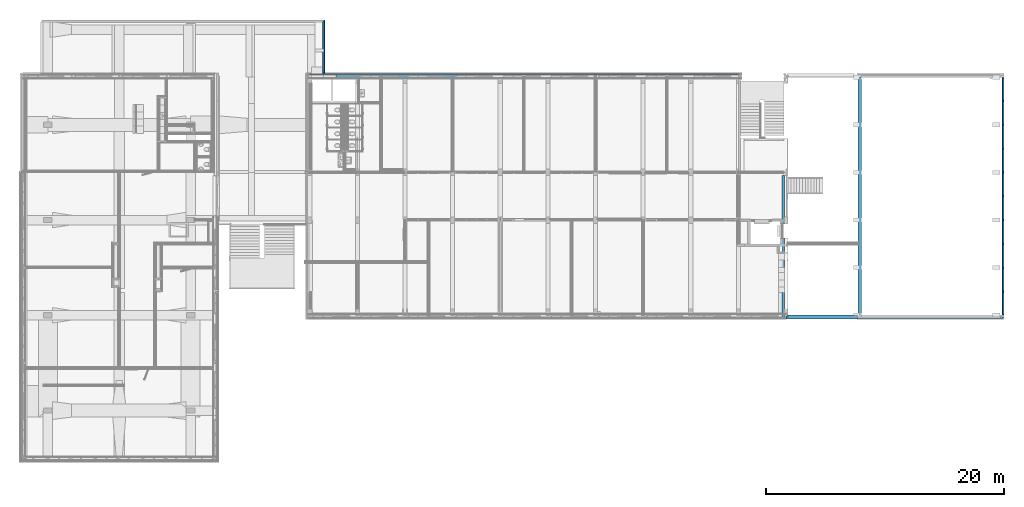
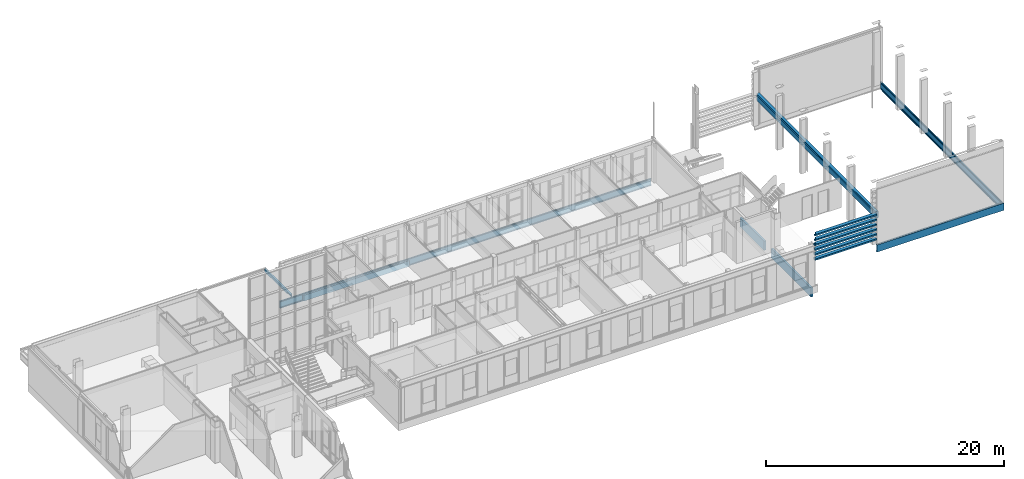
# One storey, part 21 of 94: 15 beams.
"""IFC2X3 building model written with IfcOpenShell, lengths in millimetres."""

from ifc_helpers import new_model, entity, si_unit, converted_unit, derived_unit, money_unit, direction, frame, origin_with_axes, place, context, subcontext, project, spatial, faceted_brep, material, type_object, element, save


model = new_model("IFC2X3")

# Units and contexts
model_context = context("Model", 3, precision=0.01, world=origin_with_axes(), true_north=direction((0.0, 1.0)))
body_context = subcontext(model_context, "Body", "Model", "MODEL_VIEW")
ifc_project = project(units=[si_unit("LENGTHUNIT", "METRE", prefix="MILLI"), si_unit("AREAUNIT", "SQUARE_METRE"), si_unit("VOLUMEUNIT", "CUBIC_METRE"), converted_unit("PLANEANGLEUNIT", "DEGREE", entity("IfcPlaneAngleMeasure", 0.0174532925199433), si_unit("PLANEANGLEUNIT", "RADIAN"), dimensions=[0, 0, 0, 0, 0, 0, 0]), money_unit("EUR"), converted_unit("TIMEUNIT", "Year", entity("IfcTimeMeasure", 31557600.0), si_unit("TIMEUNIT", "SECOND"), dimensions=[0, 0, 1, 0, 0, 0, 0]), si_unit("MASSUNIT", "GRAM", prefix="KILO"), si_unit("THERMODYNAMICTEMPERATUREUNIT", "DEGREE_CELSIUS"), si_unit("LUMINOUSINTENSITYUNIT", "LUMEN"), si_unit("ENERGYUNIT", "JOULE", prefix="MEGA"), derived_unit("THERMALCONDUCTANCEUNIT", [(si_unit("POWERUNIT", "WATT"), 1), (si_unit("LENGTHUNIT", "METRE"), -1), (si_unit("THERMODYNAMICTEMPERATUREUNIT", "KELVIN"), -1)]), derived_unit("SPECIFICHEATCAPACITYUNIT", [(si_unit("ENERGYUNIT", "JOULE"), 1), (si_unit("MASSUNIT", "GRAM", prefix="KILO"), -1), (si_unit("THERMODYNAMICTEMPERATUREUNIT", "KELVIN"), -1)]), derived_unit("MASSDENSITYUNIT", [(si_unit("MASSUNIT", "GRAM", prefix="KILO"), 1), (si_unit("VOLUMEUNIT", "CUBIC_METRE"), -1)])], contexts=[model_context])

# Site, building, storey
site_placement = place(None, origin_with_axes())
site = spatial("IfcSite", under=ifc_project, at=site_placement, Name="<site naam>", CompositionType="ELEMENT")
building_placement = place(site_placement, origin_with_axes())
building = spatial("IfcBuilding", under=site, at=building_placement, Name="<Naam gebouw>", CompositionType="ELEMENT")
storey_placement = place(building_placement, frame((0.0, 0.0, 4250.0), z_axis=(0.0, 0.0, 1.0), x_axis=(1.0, 0.0, 0.0)))
storey = spatial("IfcBuildingStorey", under=building, at=storey_placement, Name="01 1e verdieping", CompositionType="ELEMENT", Elevation=4250.0)

# Beams
ifc_material_1 = material(Name="beton_gewapend C")
beam_type_1 = type_object("IfcBeamType", Name="beton_gewapend C 280 x 700", PredefinedType="BEAM")
beam_1_placement = place(storey_placement, frame((58325.00000000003, 19999.99999999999, 5312.5), z_axis=(0.0, 0.0, 1.0), x_axis=(-1.0, 0.0, 0.0)))
element("IfcBeam", 1, at=beam_1_placement, inside=storey, type_object=beam_type_1, material=ifc_material_1, Name="28_Balk_beton_gewapend", ObjectType="BEAM", context=body_context, shape_type="Brep", body=[
    faceted_brep([(280.0000000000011, 0.0, -699.9999999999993), (280.0000000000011, 0.0, -179.4999999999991), (149.9999999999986, 0.0, -179.4999999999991), (149.9999999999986, 0.0, -29.49999999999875), (280.0000000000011, 0.0, -29.49999999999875), (280.0000000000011, 0.0, 0.0), (0.0, 0.0, 0.0), (0.0, 0.0, -699.9999999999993), (280.0000000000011, 19949.95463461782, -29.49999999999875), (280.0000000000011, 19949.95463461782, -179.4999999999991), (280.0000000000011, 19989.08932188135, -699.9999999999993), (280.0000000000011, 19989.08932188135, 0.0), (149.9999999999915, 19949.95463461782, -179.4999999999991), (149.9999999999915, 19949.95463461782, -29.49999999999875), (0.0, 19989.08932188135, 0.0), (0.0, 19989.08932188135, -699.9999999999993)], [[[0, 1, 2, 3, 4, 5, 6, 7]], [[8, 9, 1, 0, 10, 11, 5, 4]], [[12, 2, 1, 9]], [[13, 3, 2, 12]], [[8, 4, 3, 13]], [[6, 5, 11, 14]], [[7, 6, 14, 15]], [[0, 7, 15, 10]], [[12, 9, 8, 13]], [[15, 14, 11, 10]]]),
])
ifc_material_2 = material(Name="beton")
beam_type_2 = type_object("IfcBeamType", Name="beton 335 x 150", PredefinedType="BEAM")
beam_2_placement = place(storey_placement, frame((52000.00000000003, -324.0893218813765, 4625.0), z_axis=(0.0, 0.0, 1.0), x_axis=(0.0, -1.0, 0.0)))
element("IfcBeam", 2, at=beam_2_placement, inside=storey, type_object=beam_type_2, material=ifc_material_2, Name="41_Balk_beton", ObjectType="BEAM", context=body_context, shape_type="Brep", body=[
    faceted_brep([(-334.9999999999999, 175.0000000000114, 150.0000000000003), (-335.0000000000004, 6000.0, 150.0000000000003), (-335.0000000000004, 6000.0, 0.0), (-334.9999999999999, 175.0000000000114, 0.0), (0.0, 6000.0, 150.0000000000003), (-129.089317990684, 175.0000000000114, 150.0000000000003), (-129.0893179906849, 0.0, 150.0000000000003), (0.0, 0.0, 150.0000000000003), (0.0, 6000.0, 0.0), (0.0, 0.0, 0.0), (-129.0893179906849, 0.0, 0.0), (-129.089317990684, 175.0000000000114, 0.0)], [[[0, 1, 2, 3]], [[4, 1, 0, 5, 6, 7]], [[4, 8, 2, 1]], [[8, 9, 10, 11, 3, 2]], [[0, 3, 11, 5]], [[5, 11, 10, 6]], [[10, 9, 7, 6]], [[8, 4, 7, 9]]]),
])
for number, where, z_axis, x_axis, name in (
    (3, (52000.00000000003, -324.0893218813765, 3625.0), (0.0, 0.0, 1.0), (0.0, -1.0, 0.0), "41_Balk_beton"),
    (4, (52000.00000000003, -324.0893218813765, 3125.0), (0.0, 0.0, 1.0), (0.0, -1.0, 0.0), "41_Balk_beton"),
):
    element("IfcBeam", number, at=place(storey_placement, frame(where, z_axis=z_axis, x_axis=x_axis)), inside=storey, type_object=beam_type_2, material=ifc_material_2, Name=name, ObjectType="BEAM", context=body_context, shape_type="Brep", body=[
        faceted_brep([(-216.414802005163, 175.0000241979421, 150.0000000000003), (-216.414802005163, 65.00002351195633, 150.0000000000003), (-260.0893218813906, 65.00002351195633, 150.0000000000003), (-260.0893218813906, 0.0, 150.0000000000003), (0.0, 0.0, 150.0000000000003), (0.0, 6000.0, 150.0000000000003), (-335.0000000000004, 6000.0, 150.0000000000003), (-334.9999999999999, 65.00000000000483, 150.0000000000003), (-324.0892758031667, 65.00002351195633, 150.0000000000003), (-324.0892758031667, 175.0000241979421, 150.0000000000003), (-216.414802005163, 65.00002351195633, 0.0), (-216.414802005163, 175.0000241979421, 0.0), (-260.0893218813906, 65.00002351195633, 0.0), (-260.0893218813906, 0.0, 0.0), (0.0, 0.0, 0.0), (0.0, 6000.0, 0.0), (-335.0000000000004, 6000.0, 0.0), (-334.9999999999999, 65.00000000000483, 0.0), (-324.0892758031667, 65.00002351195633, 0.0), (-324.0892758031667, 175.0000241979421, 0.0)], [[[0, 1, 2, 3, 4, 5, 6, 7, 8, 9]], [[10, 1, 0, 11]], [[10, 12, 2, 1]], [[3, 2, 12, 13]], [[14, 4, 3, 13]], [[5, 4, 14, 15]], [[15, 16, 6, 5]], [[6, 16, 17, 7]], [[17, 18, 8, 7]], [[19, 9, 8, 18]], [[11, 0, 9, 19]], [[11, 19, 18, 17, 16, 15, 14, 13, 12, 10]]]),
    ])
beam_3_placement = place(storey_placement, frame((52000.00000000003, -324.0893218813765, 4125.0), z_axis=(0.0, 0.0, 1.0), x_axis=(0.0, -1.0, 0.0)))
element("IfcBeam", 5, at=beam_3_placement, inside=storey, type_object=beam_type_2, material=ifc_material_2, Name="41_Balk_beton", ObjectType="BEAM", context=body_context, shape_type="Brep", body=[
    faceted_brep([(-335.0000000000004, 6000.0, 150.0000000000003), (-335.0000000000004, 6000.0, 0.0), (-334.9999999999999, 65.00000000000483, 0.0), (-334.9999999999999, 65.00000000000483, 95.00000521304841), (-335.0000000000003, 175.0000000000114, 94.99999999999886), (-334.9999999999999, 175.0000000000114, 150.0000000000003), (0.0, 6000.0, 150.0000000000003), (0.0, 6000.0, 0.0), (0.0, 0.0, 0.0), (-260.0893218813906, 0.0, 0.0), (-260.0893218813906, 65.00000000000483, 0.0), (-260.0893218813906, 65.00000000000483, 94.99999999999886), (-260.0893218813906, 0.0, 95.00000829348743), (-159.0893290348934, 0.0, 95.00000829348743), (-129.089317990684, 0.0, 95.00000829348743), (-129.089317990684, 175.0000000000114, 94.99999999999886), (-129.089317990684, 175.0000000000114, 150.0000000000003), (-129.0893179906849, 0.0, 150.0000000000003), (0.0, 0.0, 150.0000000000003)], [[[0, 1, 2, 3, 4, 5]], [[6, 7, 1, 0]], [[8, 9, 10, 2, 1, 7]], [[2, 10, 11, 3]], [[4, 3, 11, 12, 13, 14, 15]], [[5, 4, 15, 16]], [[6, 0, 5, 16, 17, 18]], [[7, 6, 18, 8]], [[14, 13, 12, 9, 8, 18, 17]], [[10, 9, 12, 11]], [[16, 15, 14, 17]]]),
])
beam_4_placement = place(storey_placement, frame((52000.00000000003, -324.0893218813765, 2625.0), z_axis=(0.0, 0.0, 1.0), x_axis=(0.0, -1.0, 0.0)))
element("IfcBeam", 6, at=beam_4_placement, inside=storey, type_object=beam_type_2, material=ifc_material_2, Name="41_Balk_beton", ObjectType="BEAM", context=body_context, shape_type="Brep", body=[
    faceted_brep([(-216.414802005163, 175.0000241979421, 150.0000000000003), (-216.414802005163, 65.00002351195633, 150.0000000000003), (-260.0893218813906, 65.00002351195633, 150.0000000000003), (-260.0893218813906, 0.0, 150.0000000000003), (0.0, 0.0, 150.0000000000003), (0.0, 6000.0, 150.0000000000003), (-335.0000000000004, 6000.0, 150.0000000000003), (-334.9999999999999, 65.00000000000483, 150.0000000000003), (-324.0892758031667, 65.00002351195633, 150.0000000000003), (-324.0892758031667, 175.0000241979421, 150.0000000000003), (-216.414802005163, 65.00002351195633, 0.0), (-216.414802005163, 175.0000241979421, 0.0), (-260.0893218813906, 65.00002351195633, 0.0), (-260.0893218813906, 0.0, 0.0), (0.0, 0.0, 0.0), (0.0, 6000.0, 0.0), (-335.0000000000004, 6000.0, 0.0), (-334.9999999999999, 65.00000000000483, 0.0), (-324.0892758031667, 65.00002351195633, 0.0), (-324.0892758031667, 175.0000241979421, 0.0)], [[[0, 1, 2, 3, 4, 5, 6, 7, 8, 9]], [[10, 1, 0, 11]], [[10, 12, 2, 1]], [[3, 2, 12, 13]], [[14, 4, 3, 13]], [[5, 4, 14, 15]], [[15, 16, 6, 5]], [[6, 16, 17, 7]], [[17, 18, 8, 7]], [[19, 9, 8, 18]], [[11, 0, 9, 19]], [[11, 19, 18, 17, 16, 15, 14, 13, 12, 10]]]),
])
beam_5_placement = place(storey_placement, frame((52000.00000000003, -324.0893218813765, 5125.0), z_axis=(0.0, 0.0, 1.0), x_axis=(0.0, -1.0, 0.0)))
element("IfcBeam", 7, at=beam_5_placement, inside=storey, type_object=beam_type_2, material=ifc_material_2, Name="41_Balk_beton", ObjectType="BEAM", context=body_context, shape_type="Brep", body=[
    faceted_brep([(-334.9999999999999, 175.0000000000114, 150.0000000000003), (-335.0000000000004, 6000.0, 150.0000000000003), (-335.0000000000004, 6000.0, 0.0), (-334.9999999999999, 175.0000000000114, 0.0), (0.0, 6000.0, 150.0000000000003), (-129.089317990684, 175.0000000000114, 150.0000000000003), (-129.0893179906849, 0.0, 150.0000000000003), (0.0, 0.0, 150.0000000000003), (0.0, 6000.0, 0.0), (0.0, 0.0, 0.0), (-129.0893179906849, 0.0, 0.0), (-129.089317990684, 175.0000000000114, 0.0)], [[[0, 1, 2, 3]], [[4, 1, 0, 5, 6, 7]], [[4, 8, 2, 1]], [[8, 9, 10, 11, 3, 2]], [[0, 3, 11, 5]], [[5, 11, 10, 6]], [[10, 9, 7, 6]], [[8, 4, 7, 9]]]),
])
ifc_material_3 = material(Name="beton_gewapend_prefab")
beam_type_3 = type_object("IfcBeamType", Name="Betonbanden 160 x 760", PredefinedType="BEAM")
beam_6_placement = place(storey_placement, frame((70250.0, 20265.00000134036, 2145.0), z_axis=(0.0, 0.0, 1.0), x_axis=(-1.0, 0.0, 0.0)))
element("IfcBeam", 8, at=beam_6_placement, inside=storey, type_object=beam_type_3, material=ifc_material_3, Name="41_Balk_Betonbanden", ObjectType="BEAM", context=body_context, shape_type="Brep", body=[
    faceted_brep([(-4.298058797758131e-06, 20254.08932322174, -100.0000001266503), (-4.298058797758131e-06, 20254.08932322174, -200.0000000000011), (-4.298058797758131e-06, 325.0000013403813, -200.0000000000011), (-4.298058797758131e-06, 325.0000013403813, -100.0000001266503), (-4.298058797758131e-06, -4.298044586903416e-06, -100.0000001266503), (-4.298058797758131e-06, -4.298044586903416e-06, -690.0000385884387), (-4.298058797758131e-06, 20530.00000563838, -690.0000385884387), (-4.298058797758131e-06, 20530.00000563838, -100.0000001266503), (-20.00000000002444, 20254.08932322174, -200.0000000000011), (100.0000071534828, 20254.08932322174, -100.0000001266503), (100.0000071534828, 20254.08932322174, -80.00000000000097), (-20.00000000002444, 20254.08932322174, -80.00000000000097), (-20.00000000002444, 325.0000013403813, -200.0000000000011), (100.0000071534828, 325.0000013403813, -80.00000000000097), (100.0000071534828, 325.0000013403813, -100.0000001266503), (-20.00000000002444, 325.0000013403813, -80.00000000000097), (100.0000071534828, 100.0000071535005, -100.0000001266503), (60.00000030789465, 60.00000030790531, 0.0), (60.00000030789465, 60.00000030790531, -30.00000230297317), (-59.99999757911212, -59.99999757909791, -30.00000230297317), (-59.99999757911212, -59.99999757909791, -759.9999375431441), (-29.99999527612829, -29.99999527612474, -759.9999375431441), (-29.99999527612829, -29.99999527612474, -730.0000145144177), (-4.298058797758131e-06, -4.298044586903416e-06, -730.0000145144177), (-4.298058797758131e-06, -4.298044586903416e-06, -759.9999375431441), (60.00000030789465, 60.00000030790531, -759.9999375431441), (60.00000030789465, 60.00000030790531, -660.0000280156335), (29.99999800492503, 29.99999800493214, -660.0000280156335), (29.99999800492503, 29.99999800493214, -690.0000385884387), (100.0000071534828, 100.0000071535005, 0.0), (29.99999800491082, 20500.00000333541, -690.0000385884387), (-29.9999952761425, 20559.99999661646, -759.9999375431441), (-59.99999757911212, 20589.99999891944, -759.9999375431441), (-59.99999757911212, 20589.99999891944, -30.00000230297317), (60.00000030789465, 20470.00000103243, -30.00000230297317), (60.00000030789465, 20470.00000103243, 0.0), (100.0000071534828, 20429.99999418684, 0.0), (100.0000071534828, 20429.99999418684, -100.0000001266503), (29.99999800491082, 20500.00000333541, -660.0000280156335), (60.00000030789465, 20470.00000103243, -660.0000280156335), (60.00000030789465, 20470.00000103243, -759.9999375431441), (-4.298058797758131e-06, 20530.00000563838, -759.9999375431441), (-4.298058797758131e-06, 20530.00000563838, -730.0000145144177), (-29.9999952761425, 20559.99999661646, -730.0000145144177)], [[[0, 1, 2, 3, 4, 5, 6, 7]], [[8, 1, 0, 9, 10, 11]], [[12, 2, 1, 8]], [[13, 14, 3, 2, 12, 15]], [[4, 3, 14, 16]], [[17, 18, 19, 20, 21, 22, 23, 24, 25, 26, 27, 28, 5, 4, 16, 29]], [[5, 28, 30, 6]], [[31, 32, 33, 34, 35, 36, 37, 7, 6, 30, 38, 39, 40, 41, 42, 43]], [[37, 9, 0, 7]], [[13, 10, 9, 37, 36, 29, 16, 14]], [[11, 10, 13, 15]], [[12, 8, 11, 15]], [[18, 17, 35, 34]], [[19, 18, 34, 33]], [[20, 19, 33, 32]], [[21, 20, 32, 31]], [[22, 21, 31, 43]], [[23, 22, 43, 42]], [[24, 23, 42, 41]], [[25, 24, 41, 40]], [[26, 25, 40, 39]], [[27, 26, 39, 38]], [[28, 27, 38, 30]], [[17, 29, 36, 35]]]),
])
beam_7_placement = place(storey_placement, frame((48000.00000000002, 20265.00000134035, 19.99999999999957), z_axis=(0.0, 0.0, 1.0), x_axis=(0.0, 1.0, 0.0)))
element("IfcBeam", 9, at=beam_7_placement, inside=storey, type_object=beam_type_3, material=ifc_material_3, Name="41_Balk_Betonbanden", ObjectType="BEAM", context=body_context, shape_type="Brep", body=[
    faceted_brep([(-100.0000071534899, -3.872457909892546e-09, -49.99999999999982), (-1.340712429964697e-06, 0.0, -49.99999999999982), (-1.340712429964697e-06, 0.0, -100.0000001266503), (4.298051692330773e-06, 0.0, -690.0000385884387), (-29.99999800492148, 0.0, -690.0000385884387), (-29.99999800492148, 0.0, -660.0000280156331), (-60.00000030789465, 0.0, -660.0000280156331), (-60.00000030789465, 0.0, -759.9999375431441), (4.298051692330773e-06, 0.0, -759.9999375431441), (4.298051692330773e-06, 0.0, -730.0000145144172), (29.99999527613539, 0.0, -730.0000145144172), (29.99999527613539, 0.0, -759.9999375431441), (59.99999757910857, 0.0, -759.9999375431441), (59.99999757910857, 0.0, -30.00000230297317), (-60.00000030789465, 0.0, -30.00000230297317), (-60.00000030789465, 0.0, 0.0), (-100.0000071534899, 0.0, 0.0), (-2.736648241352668e-06, 35964.47051533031, -49.99999999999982), (-100.0000071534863, 35964.47051533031, -49.99999999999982), (-2.736648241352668e-06, 35964.47051533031, -100.0000001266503), (4.298055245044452e-06, 35964.47051533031, -690.0000385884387), (-29.99999800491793, 35964.47051533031, -690.0000385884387), (-29.99999800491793, 35964.47051533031, -660.0000280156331), (-60.0000003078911, 35964.47051533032, -660.0000280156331), (-60.0000003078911, 35964.47051533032, -759.9999375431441), (4.298055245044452e-06, 35964.47051533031, -759.9999375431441), (4.298055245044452e-06, 35964.47051533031, -730.0000145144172), (29.99999527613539, 35964.47051533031, -730.0000145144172), (29.99999527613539, 35964.47051533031, -759.9999375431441), (59.99999757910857, 35964.47051533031, -759.9999375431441), (59.99999757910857, 35964.47051533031, -30.00000230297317), (-60.0000003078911, 35964.47051533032, -30.00000230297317), (-60.0000003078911, 35964.47051533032, 0.0), (-100.0000071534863, 35964.47051533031, 0.0)], [[[0, 1, 2, 3, 4, 5, 6, 7, 8, 9, 10, 11, 12, 13, 14, 15, 16]], [[17, 1, 0, 18]], [[19, 2, 1, 17]], [[3, 2, 19, 20]], [[4, 3, 20, 21]], [[5, 4, 21, 22]], [[6, 5, 22, 23]], [[7, 6, 23, 24]], [[8, 7, 24, 25]], [[9, 8, 25, 26]], [[10, 9, 26, 27]], [[11, 10, 27, 28]], [[12, 11, 28, 29]], [[13, 12, 29, 30]], [[14, 13, 30, 31]], [[15, 14, 31, 32]], [[16, 15, 32, 33]], [[33, 18, 0, 16]], [[19, 17, 18, 33, 32, 31, 30, 29, 28, 27, 26, 25, 24, 23, 22, 21, 20]]]),
])
beam_8_placement = place(storey_placement, frame((70250.0, -264.9999999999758, 2145.0), z_axis=(0.0, 0.0, 1.0), x_axis=(0.0, 1.0, 0.0)))
element("IfcBeam", 10, at=beam_8_placement, inside=storey, type_object=beam_type_3, material=ifc_material_3, Name="41_Balk_Betonbanden", ObjectType="BEAM", context=body_context, shape_type="Brep", body=[
    faceted_brep([(-59.99999757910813, -59.99999757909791, -30.00000230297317), (-59.99999757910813, 12249.99999999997, -30.00000230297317), (-59.99999757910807, 12249.99999999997, -759.9999375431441), (-59.99999757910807, -59.99999757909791, -759.9999375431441), (60.00000030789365, 60.00000030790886, -30.00000230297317), (60.00000030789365, 12249.99999999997, -30.00000230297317), (60.00000030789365, 12249.99999999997, 0.0), (100.0000071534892, 12249.99999999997, 0.0), (100.0000071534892, 12249.99999999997, -100.0000001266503), (-4.298053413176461e-06, 12249.99999999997, -100.0000001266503), (-4.298053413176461e-06, 12249.99999999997, -690.0000385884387), (29.99999800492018, 12249.99999999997, -690.0000385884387), (29.99999800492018, 12249.99999999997, -660.0000280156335), (60.00000030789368, 12249.99999999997, -660.0000280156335), (60.00000030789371, 12249.99999999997, -759.9999375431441), (-4.298053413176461e-06, 12249.99999999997, -759.9999375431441), (-4.298053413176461e-06, 12249.99999999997, -730.0000145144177), (-29.99999527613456, 12249.99999999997, -730.0000145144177), (-29.99999527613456, 12249.99999999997, -759.9999375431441), (-29.99999527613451, -29.99999527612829, -759.9999375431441), (-29.99999527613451, -29.99999527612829, -730.0000145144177), (-4.29805335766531e-06, -4.298044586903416e-06, -730.0000145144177), (-4.29805335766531e-06, -4.298044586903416e-06, -759.9999375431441), (60.00000030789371, 60.00000030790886, -759.9999375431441), (60.00000030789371, 60.00000030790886, -660.0000280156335), (29.9999980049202, 29.99999800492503, -660.0000280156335), (29.9999980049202, 29.99999800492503, -690.0000385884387), (-4.29805335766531e-06, -4.298044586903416e-06, -690.0000385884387), (-4.298053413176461e-06, -4.298044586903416e-06, -100.0000001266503), (100.0000071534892, 100.000007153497, -100.0000001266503), (100.0000071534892, 100.000007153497, 0.0), (60.00000030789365, 60.00000030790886, 0.0)], [[[0, 1, 2, 3]], [[4, 5, 1, 0]], [[2, 1, 5, 6, 7, 8, 9, 10, 11, 12, 13, 14, 15, 16, 17, 18]], [[3, 2, 18, 19]], [[4, 0, 3, 19, 20, 21, 22, 23, 24, 25, 26, 27, 28, 29, 30, 31]], [[31, 6, 5, 4]], [[30, 7, 6, 31]], [[29, 8, 7, 30]], [[28, 9, 8, 29]], [[27, 10, 9, 28]], [[26, 11, 10, 27]], [[25, 12, 11, 26]], [[24, 13, 12, 25]], [[23, 14, 13, 24]], [[22, 15, 14, 23]], [[21, 16, 15, 22]], [[20, 17, 16, 21]], [[19, 18, 17, 20]]]),
])
beam_type_4 = type_object("IfcBeamType", Name="beton_gewapend C 300 x 600", PredefinedType="BEAM")
beam_9_placement = place(storey_placement, frame((14210.52948466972, 19994.60127102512, -30.00000000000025), z_axis=(0.0, 0.0, 1.0), x_axis=(0.0, -1.0, 0.0)))
element("IfcBeam", 11, at=beam_9_placement, inside=storey, type_object=beam_type_4, material=ifc_material_1, Name="28_Balk_beton_gewapend", ObjectType="BEAM", context=body_context, shape_type="Brep", body=[
    faceted_brep([(-300.0000000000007, 0.0, -600.0000000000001), (-300.0000000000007, 10214.99999999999, -600.0000000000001), (0.0, 10214.99999999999, -600.0000000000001), (0.0, 0.0, -600.0000000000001), (-300.0000000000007, 0.0, 0.0), (-300.0000000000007, 10214.99999999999, 0.0), (0.0, 10214.99999999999, 0.0), (0.0, 0.0, 0.0)], [[[0, 1, 2, 3]], [[4, 5, 1, 0]], [[2, 1, 5, 6]], [[3, 2, 6, 7]], [[4, 0, 3, 7]], [[7, 6, 5, 4]]]),
])
beam_type_5 = type_object("IfcBeamType", Name="beton_gewapend C 180 x 1063", PredefinedType="BEAM")
beam_10_placement = place(storey_placement, frame((51863.87051533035, 11730.39872897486, -29.99999999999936), z_axis=(0.0, 0.0, 1.0), x_axis=(-1.0, 0.0, 0.0)))
element("IfcBeam", 12, at=beam_10_placement, inside=storey, type_object=beam_type_5, material=ifc_material_1, Name="28_Balk_beton_gewapend", ObjectType="BEAM", context=body_context, shape_type="Brep", body=[
    faceted_brep([(179.9999999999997, 0.0, -1062.5), (179.9999999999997, 0.0, -120.000000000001), (0.0, 0.0, -120.000000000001), (0.0, 0.0, -1062.0), (38.87051533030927, 0.0, -1062.0), (38.87051533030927, 0.0, -1062.5), (179.9999999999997, 4049.999999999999, -1062.5), (179.9999999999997, 4049.999999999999, -120.000000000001), (0.0, 4049.999999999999, -120.000000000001), (0.0, 4049.999999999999, -1062.0), (38.87051533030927, 4049.999999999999, -1062.0), (38.87051533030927, 4049.999999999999, -1062.5)], [[[0, 1, 2, 3, 4, 5]], [[6, 7, 1, 0]], [[7, 8, 2, 1]], [[3, 2, 8, 9]], [[10, 4, 3, 9]], [[11, 5, 4, 10]], [[0, 5, 11, 6]], [[9, 8, 7, 6, 11, 10]]]),
])
beam_11_placement = place(storey_placement, frame((51863.87051533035, 6480.398728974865, -29.99999999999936), z_axis=(0.0, 0.0, 1.0), x_axis=(-0.999999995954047, -8.995502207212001e-05, 0.0)))
element("IfcBeam", 13, at=beam_11_placement, inside=storey, type_object=beam_type_5, material=ifc_material_1, Name="28_Balk_beton_gewapend", ObjectType="BEAM", context=body_context, shape_type="Brep", body=[
    faceted_brep([(0.0, 0.0, -1062.0), (0.0, 0.0, -120.000000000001), (0.0, 6670.000030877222, -120.000000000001), (0.0, 6670.000030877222, -1062.5), (0.0, 6430.353389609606, -1062.5), (0.0, 6430.353389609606, -1062.0), (179.9999999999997, 0.0, -1062.5), (179.9999999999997, 0.0, -120.000000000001), (38.8705154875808, 0.0, -1062.0), (38.8705154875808, 0.0, -1062.5), (180.0000000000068, 6670.000030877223, -120.000000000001), (180.0000000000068, 6670.000030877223, -1062.5), (39.44895775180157, 6430.349840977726, -1062.5), (39.44895775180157, 6430.349840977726, -1062.0)], [[[0, 1, 2, 3, 4, 5]], [[6, 7, 1, 0, 8, 9]], [[7, 10, 2, 1]], [[3, 2, 10, 11]], [[9, 12, 4, 3, 11, 6]], [[13, 5, 4, 12]], [[8, 0, 5, 13]], [[11, 10, 7, 6]], [[12, 9, 8, 13]]]),
])
ifc_material_4 = material(Name="ALG - BUITENAFWERKING")
beam_type_6 = type_object("IfcBeamType", Name="ALG - BUITENAFWERKING 95 x 95", PredefinedType="BEAM")
beam_12_placement = place(storey_placement, frame((70275.08050530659, 19939.99999696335, 1432.005643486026), z_axis=(0.0, 0.0, 1.0), x_axis=(-1.0, 0.0, 0.0)))
element("IfcBeam", 14, at=beam_12_placement, inside=storey, type_object=beam_type_6, material=ifc_material_4, Name="41_Balk_ALG", ObjectType="BEAM", context=body_context, shape_type="Brep", body=[
    faceted_brep([(5.080505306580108, 3909.99999696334, 0.0), (5.080505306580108, 3969.99999696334, 0.0), (95.0000302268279, 3969.99999696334, 0.0), (95.0000302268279, 5909.999996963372, 0.0), (5.080505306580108, 5909.999996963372, 0.0), (5.080505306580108, 5969.999996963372, 0.0), (95.0000302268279, 5969.999996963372, 0.0), (95.0000302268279, 7912.999996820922, 0.0), (5.080505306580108, 7912.999996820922, 0.0), (5.080505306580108, 7972.999996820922, 0.0), (95.0000302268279, 7972.999996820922, 0.0), (95.0000302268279, 9910.044666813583, 0.0), (5.080505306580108, 9910.044666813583, 0.0), (5.080505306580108, 9970.044666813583, 0.0), (95.0000302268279, 9970.044666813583, 0.0), (95.0000302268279, 11909.99999696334, 0.0), (5.080505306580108, 11909.99999696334, 0.0), (5.080505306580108, 11969.99999696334, 0.0), (95.0000302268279, 11969.99999696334, 0.0), (95.0000302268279, 13909.99999696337, 0.0), (5.080505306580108, 13909.99999696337, 0.0), (5.080505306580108, 13969.99999696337, 0.0), (95.0000302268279, 13969.99999696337, 0.0), (95.0000302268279, 15909.99999767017, 0.0), (5.080505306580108, 15909.99999767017, 0.0), (5.080505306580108, 15969.99999767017, 0.0), (95.0000302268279, 15969.99999767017, 0.0), (95.0000302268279, 17909.99999696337, 0.0), (5.080505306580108, 17909.99999696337, 0.0), (5.080505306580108, 17969.99999696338, 0.0), (95.0000302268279, 17969.99999696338, 0.0), (95.0000302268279, 19869.08931884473, 0.0), (5.080505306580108, 19869.08931884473, 0.0), (5.080505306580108, 19879.99999652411, 0.0), (0.0, 19879.99999652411, 0.0), (0.0, 0.0, 0.0), (5.080505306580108, 0.0, 0.0), (5.080505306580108, 9.999997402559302, 0.0), (95.0000302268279, 9.999997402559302, 0.0), (95.0000302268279, 1909.999996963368, 0.0), (5.080505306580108, 1909.999996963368, 0.0), (5.080505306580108, 1969.999996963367, 0.0), (95.0000302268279, 1969.999996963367, 0.0), (95.0000302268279, 3909.99999696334, 0.0), (5.080505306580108, 3969.99999696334, -95.00000092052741), (5.080505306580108, 3909.99999696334, -95.00000092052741), (95.0000302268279, 3969.99999696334, -95.00000092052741), (95.0000302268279, 5909.999996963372, -95.00000092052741), (5.080505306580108, 5909.999996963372, -95.00000092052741), (5.080505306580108, 5969.999996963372, -95.00000092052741), (95.0000302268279, 5969.999996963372, -95.00000092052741), (95.0000302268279, 7912.999996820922, -95.00000092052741), (5.080505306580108, 7912.999996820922, -95.00000092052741), (5.080505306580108, 7972.999996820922, -95.00000092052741), (95.0000302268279, 7972.999996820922, -95.00000092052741), (95.0000302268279, 9910.044666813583, -95.00000092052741), (5.080505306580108, 9910.044666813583, -95.00000092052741), (5.080505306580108, 9970.044666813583, -95.00000092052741), (95.0000302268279, 9970.044666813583, -95.00000092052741), (95.0000302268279, 11909.99999696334, -95.00000092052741), (5.080505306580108, 11909.99999696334, -95.00000092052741), (5.080505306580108, 11969.99999696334, -95.00000092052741), (95.0000302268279, 11969.99999696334, -95.00000092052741), (95.0000302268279, 13909.99999696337, -95.00000092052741), (5.080505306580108, 13909.99999696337, -95.00000092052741), (5.080505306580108, 13969.99999696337, -95.00000092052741), (95.0000302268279, 13969.99999696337, -95.00000092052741), (95.0000302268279, 15909.99999767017, -95.00000092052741), (5.080505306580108, 15909.99999767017, -95.00000092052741), (5.080505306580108, 15969.99999767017, -95.00000092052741), (95.0000302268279, 15969.99999767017, -95.00000092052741), (95.0000302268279, 17909.99999696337, -95.00000092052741), (5.080505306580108, 17909.99999696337, -95.00000092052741), (5.080505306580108, 17969.99999696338, -95.00000092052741), (95.0000302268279, 17969.99999696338, -95.00000092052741), (95.0000302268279, 19869.08931884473, -95.00000092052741), (5.080505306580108, 19869.08931884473, -95.00000092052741), (5.080505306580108, 19879.99999652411, -95.00000092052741), (0.0, 19879.99999652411, -95.00000092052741), (0.0, 0.0, -95.00000092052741), (5.080505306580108, 0.0, -95.00000092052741), (5.080505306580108, 9.999997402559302, -95.00000092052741), (95.0000302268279, 9.999997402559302, -95.00000092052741), (95.0000302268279, 1909.999996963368, -95.00000092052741), (5.080505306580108, 1909.999996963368, -95.00000092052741), (5.080505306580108, 1969.999996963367, -95.00000092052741), (95.0000302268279, 1969.999996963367, -95.00000092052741), (95.0000302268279, 3909.99999696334, -95.00000092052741)], [[[0, 1, 2, 3, 4, 5, 6, 7, 8, 9, 10, 11, 12, 13, 14, 15, 16, 17, 18, 19, 20, 21, 22, 23, 24, 25, 26, 27, 28, 29, 30, 31, 32, 33, 34, 35, 36, 37, 38, 39, 40, 41, 42, 43]], [[44, 1, 0, 45]], [[46, 2, 1, 44]], [[3, 2, 46, 47]], [[48, 4, 3, 47]], [[49, 5, 4, 48]], [[50, 6, 5, 49]], [[7, 6, 50, 51]], [[52, 8, 7, 51]], [[53, 9, 8, 52]], [[54, 10, 9, 53]], [[11, 10, 54, 55]], [[56, 12, 11, 55]], [[57, 13, 12, 56]], [[58, 14, 13, 57]], [[15, 14, 58, 59]], [[60, 16, 15, 59]], [[61, 17, 16, 60]], [[62, 18, 17, 61]], [[19, 18, 62, 63]], [[64, 20, 19, 63]], [[65, 21, 20, 64]], [[66, 22, 21, 65]], [[23, 22, 66, 67]], [[68, 24, 23, 67]], [[69, 25, 24, 68]], [[70, 26, 25, 69]], [[27, 26, 70, 71]], [[72, 28, 27, 71]], [[73, 29, 28, 72]], [[74, 30, 29, 73]], [[31, 30, 74, 75]], [[76, 32, 31, 75]], [[77, 33, 32, 76]], [[34, 33, 77, 78]], [[79, 35, 34, 78]], [[79, 80, 36, 35]], [[81, 37, 36, 80]], [[82, 38, 37, 81]], [[39, 38, 82, 83]], [[84, 40, 39, 83]], [[85, 41, 40, 84]], [[86, 42, 41, 85]], [[86, 87, 43, 42]], [[45, 0, 43, 87]], [[44, 45, 87, 86, 85, 84, 83, 82, 81, 80, 79, 78, 77, 76, 75, 74, 73, 72, 71, 70, 69, 68, 67, 66, 65, 64, 63, 62, 61, 60, 59, 58, 57, 56, 55, 54, 53, 52, 51, 50, 49, 48, 47, 46]]]),
])
beam_type_7 = type_object("IfcBeamType", Name="ALG - BUITENAFWERKING 167 x 277", PredefinedType="BEAM")
beam_13_placement = place(storey_placement, frame((13074.93604419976, 24614.99587507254, 1.541814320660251e-05), z_axis=(0.0, 0.0, 1.0), x_axis=(-1.0, 0.0, 0.0)))
element("IfcBeam", 15, at=beam_13_placement, inside=storey, type_object=beam_type_7, material=ifc_material_4, Name="47_Balk_ALG", ObjectType="BEAM", context=body_context, shape_type="Brep", body=[
    faceted_brep([(-167.0095688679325, 4300.169247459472, 0.0), (-100.0639558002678, 4300.169247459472, 0.0), (-100.0639558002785, 3744.995875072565, 0.0), (0.0, 3744.995875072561, 0.0), (0.0, 0.0, 0.0), (-150.0041177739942, -150.0041177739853, 0.0), (-150.0639584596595, -150.0041177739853, 0.0), (-150.0639584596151, 4289.995877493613, 0.0), (-167.0095688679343, 4289.995877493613, 0.0), (0.0, 4300.169247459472, 276.9021898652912), (0.0, 4300.169247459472, 149.9999845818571), (-100.0639558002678, 4300.169247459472, 149.9999845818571), (-167.0095688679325, 4300.169247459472, 276.9021898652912), (-100.0639558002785, 3744.995875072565, 149.9999845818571), (0.0, 3744.995875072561, 149.9999845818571), (0.0, 0.0, 276.9021898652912), (-164.9953467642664, -164.9947853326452, 110.5029506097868), (-164.9953467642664, -164.9947853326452, 95.10322787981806), (-167.0098452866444, -167.0092838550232, 94.7480174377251), (-167.009773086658, -167.0093582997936, 70.00003434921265), (-150.00467920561, -150.0041177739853, 70.00003434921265), (-167.0095688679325, -167.0095688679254, 276.9021898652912), (-167.00984951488, -167.0092880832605, 274.002771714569), (-166.9953467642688, -166.9947853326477, 274.002771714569), (-166.9953467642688, -166.9947853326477, 262.809403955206), (-167.0098471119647, -167.0092856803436, 262.8075329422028), (-167.0098452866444, -167.0092838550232, 95.96652937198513), (-166.1953467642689, -166.194785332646, 96.11014743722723), (-166.1953467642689, -166.194785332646, 110.5029506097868), (-150.0639584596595, -150.0041177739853, 70.00003434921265), (-150.0639584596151, 4289.995877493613, 70.00003434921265), (-167.0095688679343, 4289.995877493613, 70.00003434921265), (-167.0095688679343, 4289.995877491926, 94.74806617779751), (-167.0095688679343, 4289.995877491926, 95.96657811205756), (-167.0095688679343, 4289.995877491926, 262.8075688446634), (-167.0095688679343, 4289.995877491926, 274.002771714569), (-164.9953467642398, 4289.995877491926, 95.10322787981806), (-164.9953467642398, 4289.995877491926, 110.5029506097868), (-166.9953467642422, 4289.995877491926, 274.002771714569), (-166.9953467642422, 4289.995877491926, 262.809403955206), (-166.1953467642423, 4289.995877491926, 96.11014743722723), (-166.1953467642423, 4289.995877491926, 110.5029506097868)], [[[0, 1, 2, 3, 4, 5, 6, 7, 8]], [[9, 10, 11, 1, 0, 12]], [[11, 13, 2, 1]], [[13, 14, 3, 2]], [[4, 3, 14, 10, 9, 15]], [[16, 17, 18, 19, 20, 5, 4, 15, 21, 22, 23, 24, 25, 26, 27, 28]], [[6, 5, 20, 29]], [[29, 30, 7, 6]], [[8, 7, 30, 31]], [[21, 12, 0, 8, 31, 19, 18, 32, 33, 26, 25, 34, 35, 22]], [[14, 13, 11, 10]], [[12, 21, 15, 9]], [[36, 17, 16, 37]], [[36, 32, 18, 17]], [[29, 20, 19, 31, 30]], [[38, 23, 22, 35]], [[39, 24, 23, 38]], [[39, 34, 25, 24]], [[40, 27, 26, 33]], [[41, 28, 27, 40]], [[37, 16, 28, 41]], [[32, 36, 37, 41, 40, 33]], [[38, 35, 34, 39]]]),
])

save(model, "model.ifc")
